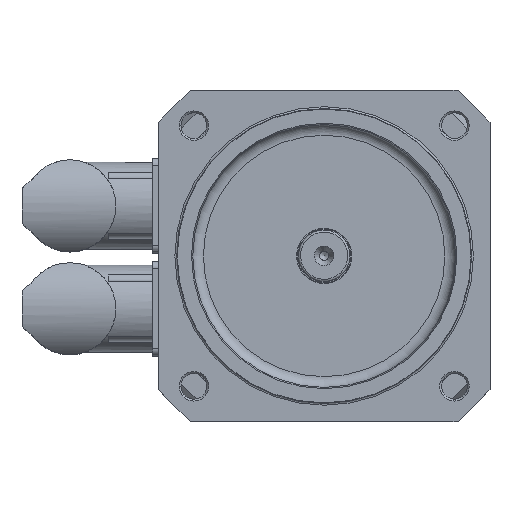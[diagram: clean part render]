
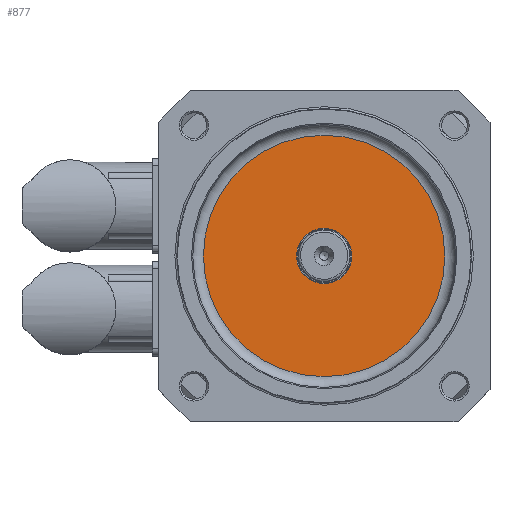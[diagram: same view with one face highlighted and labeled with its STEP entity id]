
A CAD part, top view. The second image highlights one B-rep face of the part: STEP entity #877.
In plain terms, the highlighted planar face has unit normal (0, 0, 1).
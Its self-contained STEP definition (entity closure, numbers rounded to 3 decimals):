
#159=PLANE('',#4454);
#877=ADVANCED_FACE('',(#1133),#159,.F.);
#1133=FACE_OUTER_BOUND('',#1380,.T.);
#1380=EDGE_LOOP('',(#2060));
#1673=CIRCLE('',#4453,32.76);
#2060=ORIENTED_EDGE('',*,*,#3697,.T.);
#3226=VERTEX_POINT('',#6541);
#3697=EDGE_CURVE('',#3226,#3226,#1673,.T.);
#4453=AXIS2_PLACEMENT_3D('',#6540,#5079,#5080);
#4454=AXIS2_PLACEMENT_3D('',#6542,#5081,#5082);
#5079=DIRECTION('',(0.,0.,1.));
#5080=DIRECTION('',(-1.,0.,0.));
#5081=DIRECTION('',(0.,0.,-1.));
#5082=DIRECTION('',(-1.,0.,0.));
#6540=CARTESIAN_POINT('',(0.,0.,29.));
#6541=CARTESIAN_POINT('',(-32.76,0.,29.));
#6542=CARTESIAN_POINT('',(0.,0.,29.));
